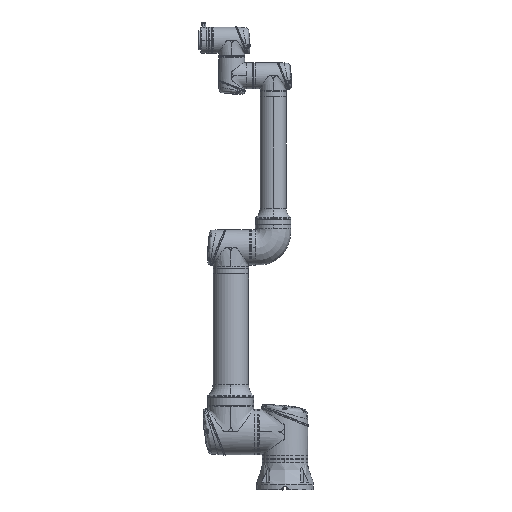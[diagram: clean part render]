
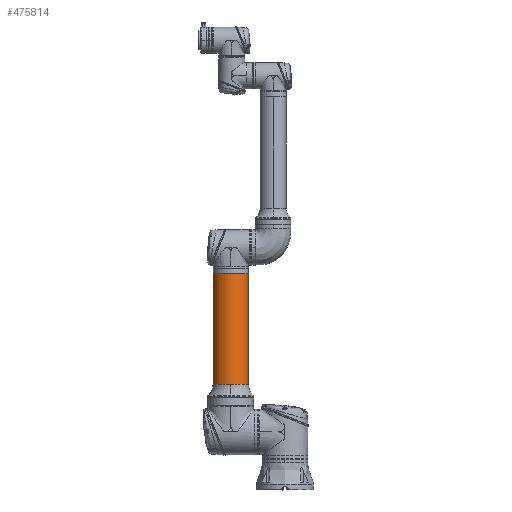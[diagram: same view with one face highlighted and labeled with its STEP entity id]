
A CAD part, top view. The second image highlights one B-rep face of the part: STEP entity #475814.
In plain terms, the highlighted cylindrical face has radius 59 mm (diameter 118 mm), a partial arc.
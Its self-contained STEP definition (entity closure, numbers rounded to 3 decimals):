
#6074 = DIRECTION ( 'NONE',  ( 0., 0., -1. ) ) ;
#6719 = CARTESIAN_POINT ( 'NONE',  ( 158.463, 0., -59. ) ) ;
#12373 = CYLINDRICAL_SURFACE ( 'NONE', #358506, 59. ) ;
#14985 = ORIENTED_EDGE ( 'NONE', *, *, #272867, .F. ) ;
#52872 = LINE ( 'NONE', #91130, #132535 ) ;
#56039 = CARTESIAN_POINT ( 'NONE',  ( 158.463, 0., 59. ) ) ;
#77264 = CIRCLE ( 'NONE', #248254, 59. ) ;
#91130 = CARTESIAN_POINT ( 'NONE',  ( 562.7, 0., 59. ) ) ;
#98261 = ORIENTED_EDGE ( 'NONE', *, *, #259084, .T. ) ;
#105122 = CIRCLE ( 'NONE', #294723, 59. ) ;
#113976 = DIRECTION ( 'NONE',  ( 1., 0., 0. ) ) ;
#119353 = EDGE_LOOP ( 'NONE', ( #177092, #98261, #187842, #303249, #14985 ) ) ;
#121686 = VERTEX_POINT ( 'NONE', #271589 ) ;
#129910 = CARTESIAN_POINT ( 'NONE',  ( 158.463, 0., 0. ) ) ;
#131717 = DIRECTION ( 'NONE',  ( 0., 1., 0. ) ) ;
#132535 = VECTOR ( 'NONE', #388872, 1000. ) ;
#153166 = EDGE_CURVE ( 'NONE', #533096, #121686, #458077, .T. ) ;
#169631 = DIRECTION ( 'NONE',  ( 0., 0., -1. ) ) ;
#172374 = DIRECTION ( 'NONE',  ( 1., 0., 0. ) ) ;
#177092 = ORIENTED_EDGE ( 'NONE', *, *, #215431, .T. ) ;
#180237 = CARTESIAN_POINT ( 'NONE',  ( 158.463, 0., 0. ) ) ;
#187842 = ORIENTED_EDGE ( 'NONE', *, *, #410623, .T. ) ;
#215431 = EDGE_CURVE ( 'NONE', #321567, #243996, #105122, .T. ) ;
#243996 = VERTEX_POINT ( 'NONE', #511599 ) ;
#248254 = AXIS2_PLACEMENT_3D ( 'NONE', #180237, #269001, #439018 ) ;
#259084 = EDGE_CURVE ( 'NONE', #243996, #322357, #77264, .T. ) ;
#269001 = DIRECTION ( 'NONE',  ( 1., 0., 0. ) ) ;
#271589 = CARTESIAN_POINT ( 'NONE',  ( 526.1, 0., 59. ) ) ;
#272867 = EDGE_CURVE ( 'NONE', #321567, #533096, #313297, .T. ) ;
#294723 = AXIS2_PLACEMENT_3D ( 'NONE', #129910, #172374, #131717 ) ;
#303249 = ORIENTED_EDGE ( 'NONE', *, *, #153166, .F. ) ;
#306430 = VECTOR ( 'NONE', #113976, 1000. ) ;
#313297 = LINE ( 'NONE', #326726, #306430 ) ;
#321567 = VERTEX_POINT ( 'NONE', #6719 ) ;
#322357 = VERTEX_POINT ( 'NONE', #56039 ) ;
#326726 = CARTESIAN_POINT ( 'NONE',  ( 562.7, 0., -59. ) ) ;
#329006 = DIRECTION ( 'NONE',  ( 1., 0., 0. ) ) ;
#334426 = CARTESIAN_POINT ( 'NONE',  ( 526.1, 0., 0. ) ) ;
#358506 = AXIS2_PLACEMENT_3D ( 'NONE', #413960, #329006, #6074 ) ;
#372777 = AXIS2_PLACEMENT_3D ( 'NONE', #334426, #511875, #169631 ) ;
#388872 = DIRECTION ( 'NONE',  ( 1., 0., 0. ) ) ;
#403652 = FACE_OUTER_BOUND ( 'NONE', #119353, .T. ) ;
#410623 = EDGE_CURVE ( 'NONE', #322357, #121686, #52872, .T. ) ;
#413960 = CARTESIAN_POINT ( 'NONE',  ( 562.7, 0., 0. ) ) ;
#439018 = DIRECTION ( 'NONE',  ( 0., 1., 0. ) ) ;
#458077 = CIRCLE ( 'NONE', #372777, 59. ) ;
#475814 = ADVANCED_FACE ( 'NONE', ( #403652 ), #12373, .T. ) ;
#482591 = CARTESIAN_POINT ( 'NONE',  ( 526.1, 0., -59. ) ) ;
#511599 = CARTESIAN_POINT ( 'NONE',  ( 158.463, 59., 0. ) ) ;
#511875 = DIRECTION ( 'NONE',  ( 1., 0., 0. ) ) ;
#533096 = VERTEX_POINT ( 'NONE', #482591 ) ;
